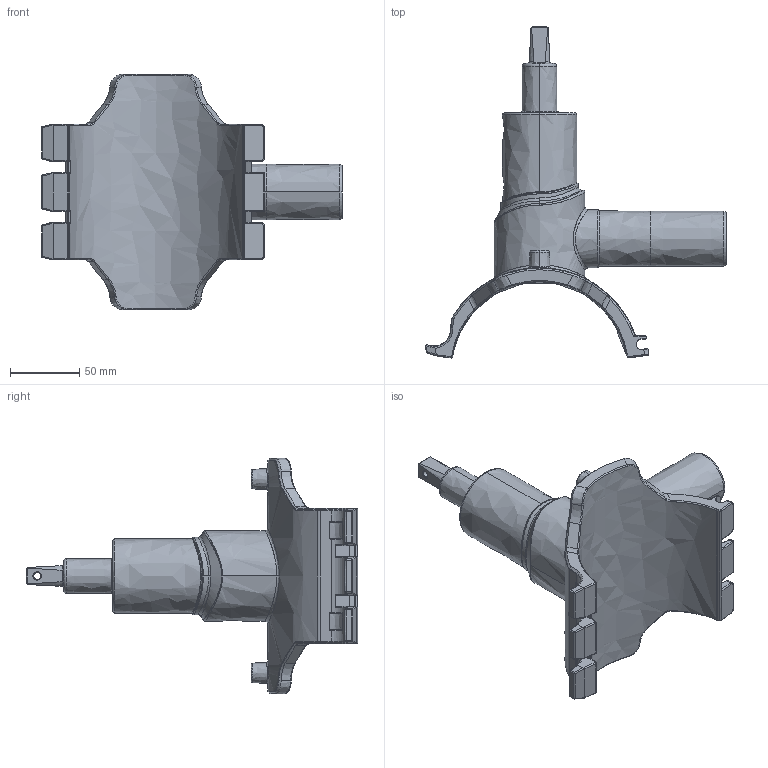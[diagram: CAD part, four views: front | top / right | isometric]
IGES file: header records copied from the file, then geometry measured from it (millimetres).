
Start section:  PTC IGES file: dav2_d125_40_01.igs
Global section: file name: dav2_d125_40_01.igs; native system: Creo Parametric by PTC Inc.; preprocessor: 2019030; author: mikulicp; organization: Unknown; date: 20210622.135605; units: millimetre
Bounding box: 217.39 x 239.79 x 170 mm (x, y, z)
Surface area: 107287.2 mm2 (no closed solid volume)
Topology: 0 solids, 0 shells, 571 faces, 2768 edges, 2762 vertices
Faces by surface type: bspline 571
